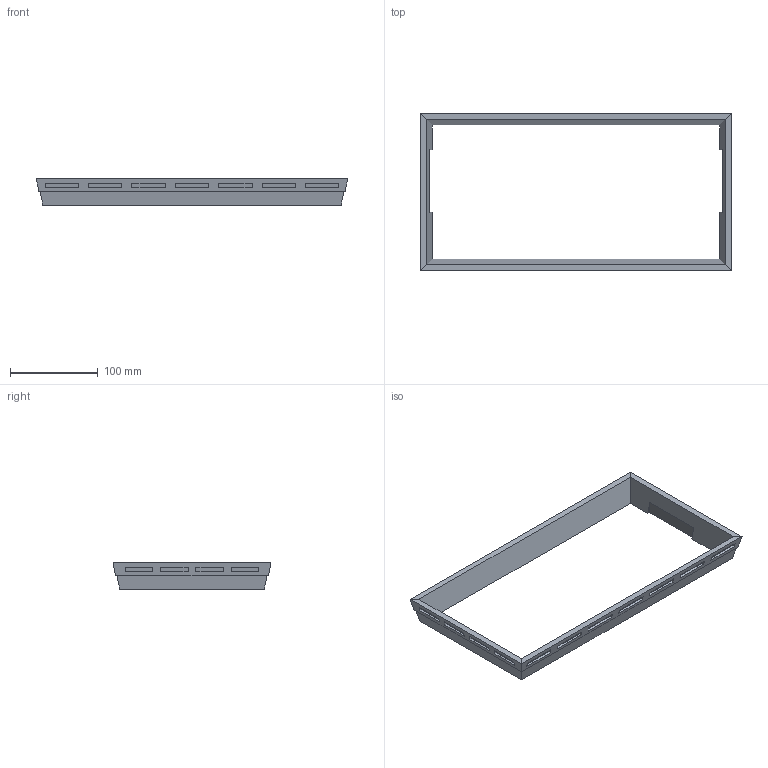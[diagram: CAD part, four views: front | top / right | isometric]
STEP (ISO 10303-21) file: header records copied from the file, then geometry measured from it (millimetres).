
FILE_DESCRIPTION(/* description */ ('Alibre Inc.'),/* implementation_level */ '2;1');
FILE_NAME(/* name */ 'export0',/* time_stamp */ '2014-01-01T19:49:52-05:00',/* author */ (''),/* organization */ (''),/* preprocessor_version */ 'ST-DEVELOPER v14',/* originating_system */ 'Alibre',/* authorisation */ '');
FILE_SCHEMA (('CONFIG_CONTROL_DESIGN'));
Length unit declared in the file: centimetre
Products named in the file (4): ID_1; ID_2; ID_3
Bounding box: 355.6 x 180.34 x 30.15 mm (x, y, z)
Volume: 184762.8 mm3; surface area: 83508.7 mm2
Topology: 4 solids, 4 shells, 148 faces, 354 edges, 236 vertices
Faces by surface type: plane 142, bspline 6
Entity records: 3429 total; most frequent: CARTESIAN_POINT 756, ORIENTED_EDGE 504, DIRECTION 316, EDGE_CURVE 252, VECTOR 199, LINE 199, VERTEX_POINT 168, EDGE_LOOP 120
